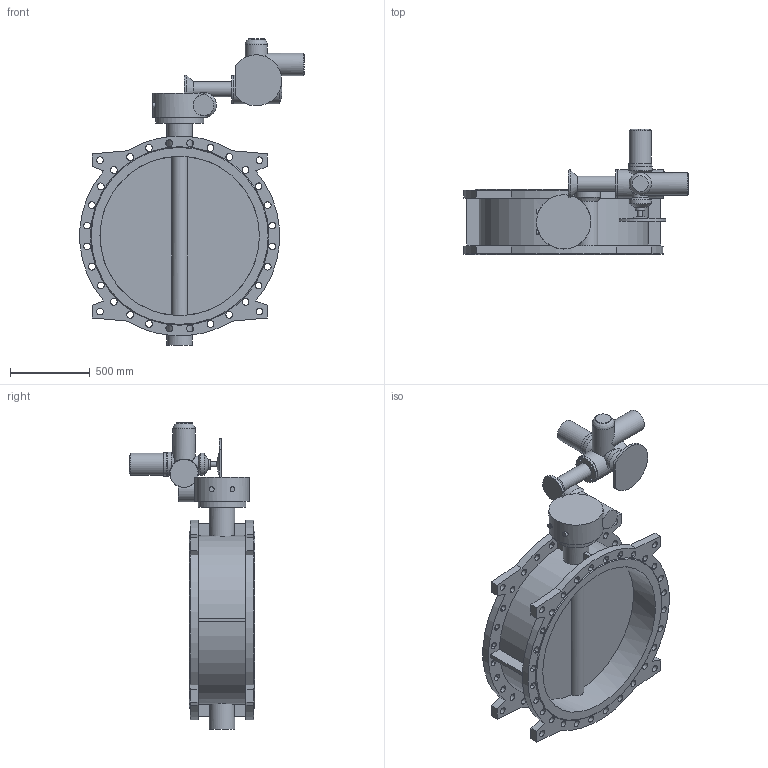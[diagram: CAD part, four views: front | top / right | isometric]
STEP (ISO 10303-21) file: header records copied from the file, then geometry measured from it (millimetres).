
FILE_DESCRIPTION(('STEP AP203'), '1');
FILE_NAME('Çàòâîð 021F.Y DN1000 +ðåäóêòîð+ÌÒ903.À30-34', '', ('UNSPECIFIED'), ('UNSPECIFIED'), 'ASCON STEP Converter 1.6', 'ASCON Math Kernel', '');
FILE_SCHEMA(('CONFIG_CONTROL_DESIGN'));
Length unit declared in the file: millimetre
Bounding box: 1405.56 x 787 x 1921 mm (x, y, z)
Volume: 152273616.5 mm3; surface area: 8056206.6 mm2
Topology: 1 solids, 1 shells, 408 faces, 1089 edges, 721 vertices
Faces by surface type: plane 209, cylinder 185, cone 13, torus 1
Full cylindrical faces by diameter (mm): 14 x12, 18 x12, 30 x2, 32 x1, 42 x8, 60 x1, 95 x1, 100 x1, 130 x1, 140 x4, 147 x1, 151 x1, 160 x3, 175 x1, 180 x1, 300 x1, 340 x1, 1000 x2
Entity records: 18240 total; most frequent: CARTESIAN_POINT 4454, DIRECTION 2184, ORIENTED_EDGE 2044, EDGE_CURVE 1022, AXIS2_PLACEMENT_3D 791, VERTEX_POINT 721, EDGE_LOOP 643, LINE 602
